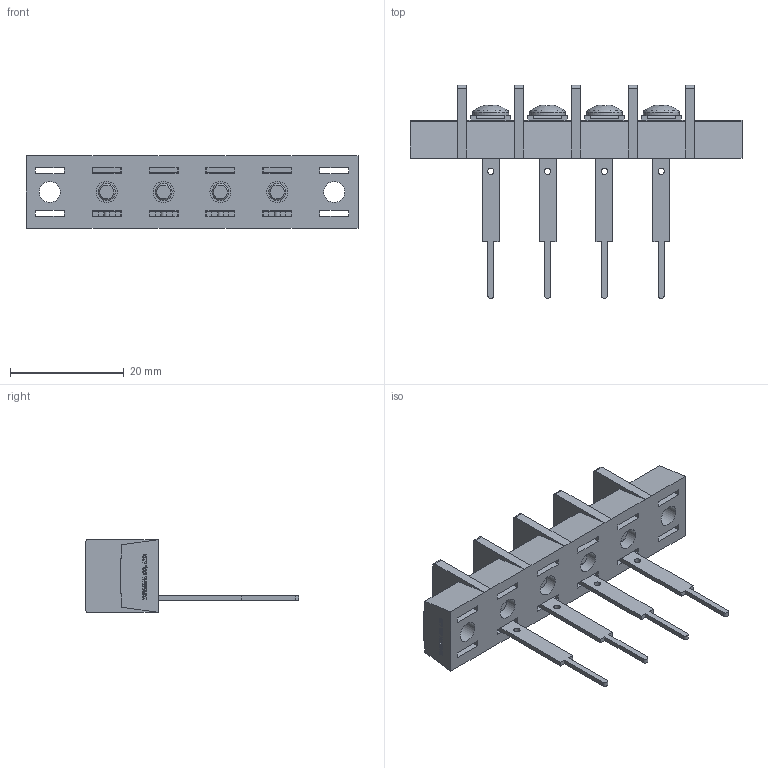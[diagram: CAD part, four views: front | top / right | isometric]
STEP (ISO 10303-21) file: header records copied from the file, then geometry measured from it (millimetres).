
FILE_DESCRIPTION(/* description */ ('Alibre Inc.'),/* implementation_level */ '2;1');
FILE_NAME(/* name */ 'export0',/* time_stamp */ '2015-10-22T20:25:02+09:00',/* author */ (''),/* organization */ (''),/* preprocessor_version */ 'ST-DEVELOPER v14',/* originating_system */ 'Alibre',/* authorisation */ '');
FILE_SCHEMA (('CONFIG_CONTROL_DESIGN'));
Length unit declared in the file: centimetre
Products named in the file (1): ID_1
Bounding box: 58.4 x 37.5 x 12.8 mm (x, y, z)
Volume: 5089.2 mm3; surface area: 6241.5 mm2
Topology: 1 solids, 69 shells, 1556 faces, 4026 edges, 2666 vertices
Faces by surface type: plane 1162, bspline 312, cylinder 50, cone 20, torus 8, sphere 4
Full cylindrical faces by diameter (mm): 1.1 x4, 3 x8, 3.7 x6, 4.6 x6, 6.3 x4
Entity records: 45367 total; most frequent: CARTESIAN_POINT 10997, ORIENTED_EDGE 7952, DIRECTION 4716, EDGE_CURVE 3976, VECTOR 3080, LINE 3080, VERTEX_POINT 2656, EDGE_LOOP 1730
